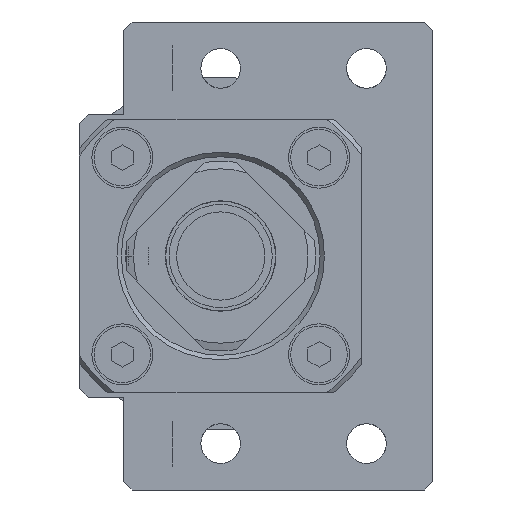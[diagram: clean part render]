
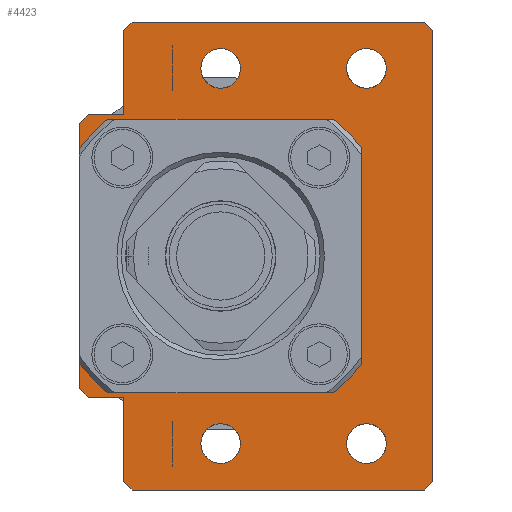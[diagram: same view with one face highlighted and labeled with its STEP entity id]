
A CAD part, left-side view. The second image highlights one B-rep face of the part: STEP entity #4423.
In plain terms, the highlighted planar face has unit normal (-1, 0, 0) as drawn and (0, 0, 1) by its records, which use the part's own axes.
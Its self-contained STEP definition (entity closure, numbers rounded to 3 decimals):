
#258=FACE_BOUND('',#887,.T.);
#259=FACE_BOUND('',#888,.T.);
#260=FACE_BOUND('',#889,.T.);
#261=FACE_BOUND('',#890,.T.);
#262=FACE_BOUND('',#891,.T.);
#389=PLANE('',#4906);
#582=FACE_OUTER_BOUND('',#886,.T.);
#886=EDGE_LOOP('',(#3670,#3671,#3672,#3673,#3674,#3675,#3676,#3677,#3678,
#3679,#3680,#3681,#3682,#3683));
#887=EDGE_LOOP('',(#3684));
#888=EDGE_LOOP('',(#3685));
#889=EDGE_LOOP('',(#3686));
#890=EDGE_LOOP('',(#3687));
#891=EDGE_LOOP('',(#3688,#3689,#3690,#3691,#3692,#3693,#3694,#3695));
#1128=LINE('',#7868,#1455);
#1192=LINE('',#8256,#1519);
#1195=LINE('',#8261,#1522);
#1197=LINE('',#8265,#1524);
#1199=LINE('',#8269,#1526);
#1204=LINE('',#8276,#1531);
#1206=LINE('',#8280,#1533);
#1210=LINE('',#8287,#1537);
#1213=LINE('',#8292,#1540);
#1214=LINE('',#8294,#1541);
#1215=LINE('',#8297,#1542);
#1217=LINE('',#8301,#1544);
#1219=LINE('',#8304,#1546);
#1220=LINE('',#8305,#1547);
#1221=LINE('',#8310,#1548);
#1222=LINE('',#8314,#1549);
#1223=LINE('',#8318,#1550);
#1224=LINE('',#8321,#1551);
#1455=VECTOR('',#5509,1000.);
#1519=VECTOR('',#5765,1000.);
#1522=VECTOR('',#5770,1000.);
#1524=VECTOR('',#5774,1000.);
#1526=VECTOR('',#5778,1000.);
#1531=VECTOR('',#5785,1000.);
#1533=VECTOR('',#5789,1000.);
#1537=VECTOR('',#5795,1000.);
#1540=VECTOR('',#5800,1000.);
#1541=VECTOR('',#5803,1000.);
#1542=VECTOR('',#5806,1000.);
#1544=VECTOR('',#5810,1000.);
#1546=VECTOR('',#5814,1000.);
#1547=VECTOR('',#5815,1000.);
#1548=VECTOR('',#5818,1000.);
#1549=VECTOR('',#5821,1000.);
#1550=VECTOR('',#5824,1000.);
#1551=VECTOR('',#5827,1000.);
#1751=CIRCLE('',#4781,4.5);
#1753=CIRCLE('',#4786,4.5);
#1755=CIRCLE('',#4791,4.5);
#1757=CIRCLE('',#4796,4.5);
#1816=CIRCLE('',#4907,39.2);
#1817=CIRCLE('',#4908,39.2);
#1818=CIRCLE('',#4909,39.2);
#1819=CIRCLE('',#4910,39.2);
#1997=VERTEX_POINT('',#7142);
#2011=VERTEX_POINT('',#7348);
#2025=VERTEX_POINT('',#7554);
#2039=VERTEX_POINT('',#7760);
#2047=VERTEX_POINT('',#7866);
#2048=VERTEX_POINT('',#7867);
#2158=VERTEX_POINT('',#8254);
#2159=VERTEX_POINT('',#8255);
#2160=VERTEX_POINT('',#8260);
#2161=VERTEX_POINT('',#8264);
#2162=VERTEX_POINT('',#8268);
#2163=VERTEX_POINT('',#8274);
#2164=VERTEX_POINT('',#8278);
#2165=VERTEX_POINT('',#8284);
#2166=VERTEX_POINT('',#8286);
#2167=VERTEX_POINT('',#8290);
#2168=VERTEX_POINT('',#8296);
#2169=VERTEX_POINT('',#8300);
#2170=VERTEX_POINT('',#8306);
#2171=VERTEX_POINT('',#8307);
#2172=VERTEX_POINT('',#8309);
#2173=VERTEX_POINT('',#8311);
#2174=VERTEX_POINT('',#8313);
#2175=VERTEX_POINT('',#8315);
#2176=VERTEX_POINT('',#8317);
#2177=VERTEX_POINT('',#8319);
#2478=EDGE_CURVE('',#1997,#1997,#1751,.T.);
#2495=EDGE_CURVE('',#2011,#2011,#1753,.T.);
#2512=EDGE_CURVE('',#2025,#2025,#1755,.T.);
#2529=EDGE_CURVE('',#2039,#2039,#1757,.T.);
#2539=EDGE_CURVE('',#2047,#2048,#1128,.T.);
#2690=EDGE_CURVE('',#2158,#2159,#1192,.T.);
#2693=EDGE_CURVE('',#2159,#2160,#1195,.T.);
#2695=EDGE_CURVE('',#2160,#2161,#1197,.T.);
#2697=EDGE_CURVE('',#2161,#2162,#1199,.T.);
#2702=EDGE_CURVE('',#2162,#2163,#1204,.T.);
#2704=EDGE_CURVE('',#2163,#2164,#1206,.T.);
#2708=EDGE_CURVE('',#2166,#2165,#1210,.T.);
#2711=EDGE_CURVE('',#2165,#2167,#1213,.T.);
#2712=EDGE_CURVE('',#2167,#2158,#1214,.T.);
#2713=EDGE_CURVE('',#2164,#2168,#1215,.T.);
#2715=EDGE_CURVE('',#2169,#2166,#1217,.T.);
#2717=EDGE_CURVE('',#2047,#2169,#1219,.T.);
#2718=EDGE_CURVE('',#2168,#2048,#1220,.T.);
#2719=EDGE_CURVE('',#2170,#2171,#1816,.T.);
#2720=EDGE_CURVE('',#2172,#2171,#1221,.T.);
#2721=EDGE_CURVE('',#2172,#2173,#1817,.T.);
#2722=EDGE_CURVE('',#2174,#2173,#1222,.T.);
#2723=EDGE_CURVE('',#2174,#2175,#1818,.T.);
#2724=EDGE_CURVE('',#2176,#2175,#1223,.T.);
#2725=EDGE_CURVE('',#2176,#2177,#1819,.T.);
#2726=EDGE_CURVE('',#2170,#2177,#1224,.T.);
#3670=ORIENTED_EDGE('',*,*,#2717,.T.);
#3671=ORIENTED_EDGE('',*,*,#2715,.T.);
#3672=ORIENTED_EDGE('',*,*,#2708,.T.);
#3673=ORIENTED_EDGE('',*,*,#2711,.T.);
#3674=ORIENTED_EDGE('',*,*,#2712,.T.);
#3675=ORIENTED_EDGE('',*,*,#2690,.T.);
#3676=ORIENTED_EDGE('',*,*,#2693,.T.);
#3677=ORIENTED_EDGE('',*,*,#2695,.T.);
#3678=ORIENTED_EDGE('',*,*,#2697,.T.);
#3679=ORIENTED_EDGE('',*,*,#2702,.T.);
#3680=ORIENTED_EDGE('',*,*,#2704,.T.);
#3681=ORIENTED_EDGE('',*,*,#2713,.T.);
#3682=ORIENTED_EDGE('',*,*,#2718,.T.);
#3683=ORIENTED_EDGE('',*,*,#2539,.F.);
#3684=ORIENTED_EDGE('',*,*,#2478,.T.);
#3685=ORIENTED_EDGE('',*,*,#2495,.T.);
#3686=ORIENTED_EDGE('',*,*,#2512,.T.);
#3687=ORIENTED_EDGE('',*,*,#2529,.T.);
#3688=ORIENTED_EDGE('',*,*,#2719,.T.);
#3689=ORIENTED_EDGE('',*,*,#2720,.F.);
#3690=ORIENTED_EDGE('',*,*,#2721,.T.);
#3691=ORIENTED_EDGE('',*,*,#2722,.F.);
#3692=ORIENTED_EDGE('',*,*,#2723,.T.);
#3693=ORIENTED_EDGE('',*,*,#2724,.F.);
#3694=ORIENTED_EDGE('',*,*,#2725,.T.);
#3695=ORIENTED_EDGE('',*,*,#2726,.F.);
#4423=ADVANCED_FACE('',(#582,#258,#259,#260,#261,#262),#389,.T.);
#4781=AXIS2_PLACEMENT_3D('',#7143,#5460,#5461);
#4786=AXIS2_PLACEMENT_3D('',#7349,#5473,#5474);
#4791=AXIS2_PLACEMENT_3D('',#7555,#5486,#5487);
#4796=AXIS2_PLACEMENT_3D('',#7761,#5499,#5500);
#4906=AXIS2_PLACEMENT_3D('',#8303,#5812,#5813);
#4907=AXIS2_PLACEMENT_3D('',#8308,#5816,#5817);
#4908=AXIS2_PLACEMENT_3D('',#8312,#5819,#5820);
#4909=AXIS2_PLACEMENT_3D('',#8316,#5822,#5823);
#4910=AXIS2_PLACEMENT_3D('',#8320,#5825,#5826);
#5460=DIRECTION('center_axis',(0.,0.,-1.));
#5461=DIRECTION('ref_axis',(1.,0.,0.));
#5473=DIRECTION('center_axis',(0.,0.,-1.));
#5474=DIRECTION('ref_axis',(1.,0.,0.));
#5486=DIRECTION('center_axis',(0.,0.,-1.));
#5487=DIRECTION('ref_axis',(1.,0.,0.));
#5499=DIRECTION('center_axis',(0.,0.,-1.));
#5500=DIRECTION('ref_axis',(1.,0.,0.));
#5509=DIRECTION('',(1.,0.,0.));
#5765=DIRECTION('',(0.707,-0.707,0.));
#5770=DIRECTION('',(1.,0.,0.));
#5774=DIRECTION('',(0.707,0.707,0.));
#5778=DIRECTION('',(0.,1.,0.));
#5785=DIRECTION('',(-0.707,0.707,0.));
#5789=DIRECTION('',(-1.,0.,0.));
#5795=DIRECTION('',(-1.,0.,0.));
#5800=DIRECTION('',(-0.707,-0.707,0.));
#5803=DIRECTION('',(0.,-1.,0.));
#5806=DIRECTION('',(0.,1.,0.));
#5810=DIRECTION('',(0.,-1.,0.));
#5812=DIRECTION('center_axis',(0.,0.,1.));
#5813=DIRECTION('ref_axis',(1.,0.,0.));
#5814=DIRECTION('',(-0.707,-0.707,0.));
#5815=DIRECTION('',(-0.707,0.707,0.));
#5816=DIRECTION('center_axis',(0.,0.,-1.));
#5817=DIRECTION('ref_axis',(-1.,0.,0.));
#5818=DIRECTION('',(-1.,0.,0.));
#5819=DIRECTION('center_axis',(0.,0.,-1.));
#5820=DIRECTION('ref_axis',(-1.,0.,0.));
#5821=DIRECTION('',(0.,1.,0.));
#5822=DIRECTION('center_axis',(0.,0.,-1.));
#5823=DIRECTION('ref_axis',(-1.,0.,0.));
#5824=DIRECTION('',(1.,0.,0.));
#5825=DIRECTION('center_axis',(0.,0.,-1.));
#5826=DIRECTION('ref_axis',(-1.,0.,0.));
#5827=DIRECTION('',(0.,-1.,0.));
#7142=CARTESIAN_POINT('',(-47.,0.,0.));
#7143=CARTESIAN_POINT('Origin',(-42.5,0.,0.));
#7348=CARTESIAN_POINT('',(38.,0.,0.));
#7349=CARTESIAN_POINT('Origin',(42.5,0.,0.));
#7554=CARTESIAN_POINT('',(-47.,-33.,0.));
#7555=CARTESIAN_POINT('Origin',(-42.5,-33.,0.));
#7760=CARTESIAN_POINT('',(38.,-33.,0.));
#7761=CARTESIAN_POINT('Origin',(42.5,-33.,0.));
#7866=CARTESIAN_POINT('',(-30.,32.,0.));
#7867=CARTESIAN_POINT('',(30.,32.,0.));
#7868=CARTESIAN_POINT('',(30.,32.,0.));
#8254=CARTESIAN_POINT('',(-53.,-46.08,0.));
#8255=CARTESIAN_POINT('',(-51.08,-48.,0.));
#8256=CARTESIAN_POINT('',(-53.,-46.08,0.));
#8260=CARTESIAN_POINT('',(51.08,-48.,0.));
#8261=CARTESIAN_POINT('',(-51.08,-48.,0.));
#8264=CARTESIAN_POINT('',(53.,-46.08,0.));
#8265=CARTESIAN_POINT('',(51.08,-48.,0.));
#8268=CARTESIAN_POINT('',(53.,20.08,0.));
#8269=CARTESIAN_POINT('',(53.,-46.08,0.));
#8274=CARTESIAN_POINT('',(51.08,22.,0.));
#8276=CARTESIAN_POINT('',(53.,20.08,0.));
#8278=CARTESIAN_POINT('',(32.,22.,0.));
#8280=CARTESIAN_POINT('',(51.08,22.,0.));
#8284=CARTESIAN_POINT('',(-51.08,22.,0.));
#8286=CARTESIAN_POINT('',(-32.,22.,0.));
#8287=CARTESIAN_POINT('',(-32.,22.,0.));
#8290=CARTESIAN_POINT('',(-53.,20.08,0.));
#8292=CARTESIAN_POINT('',(-51.08,22.,0.));
#8294=CARTESIAN_POINT('',(-53.,20.08,0.));
#8296=CARTESIAN_POINT('',(32.,30.,0.));
#8297=CARTESIAN_POINT('',(32.,22.,0.));
#8300=CARTESIAN_POINT('',(-32.,30.,0.));
#8301=CARTESIAN_POINT('',(-32.,30.,0.));
#8303=CARTESIAN_POINT('Origin',(0.,0.,0.));
#8304=CARTESIAN_POINT('',(-30.,32.,0.));
#8305=CARTESIAN_POINT('',(32.,30.,0.));
#8306=CARTESIAN_POINT('',(-30.98,24.018,0.));
#8307=CARTESIAN_POINT('',(-22.67,31.98,0.));
#8308=CARTESIAN_POINT('Origin',(0.,0.,0.));
#8309=CARTESIAN_POINT('',(22.67,31.98,0.));
#8310=CARTESIAN_POINT('',(30.98,31.98,0.));
#8311=CARTESIAN_POINT('',(30.98,24.018,0.));
#8312=CARTESIAN_POINT('Origin',(0.,0.,0.));
#8313=CARTESIAN_POINT('',(30.98,-24.018,0.));
#8314=CARTESIAN_POINT('',(30.98,-31.98,0.));
#8315=CARTESIAN_POINT('',(22.67,-31.98,0.));
#8316=CARTESIAN_POINT('Origin',(0.,0.,0.));
#8317=CARTESIAN_POINT('',(-22.67,-31.98,0.));
#8318=CARTESIAN_POINT('',(-30.98,-31.98,0.));
#8319=CARTESIAN_POINT('',(-30.98,-24.018,0.));
#8320=CARTESIAN_POINT('Origin',(0.,0.,0.));
#8321=CARTESIAN_POINT('',(-30.98,31.98,0.));
